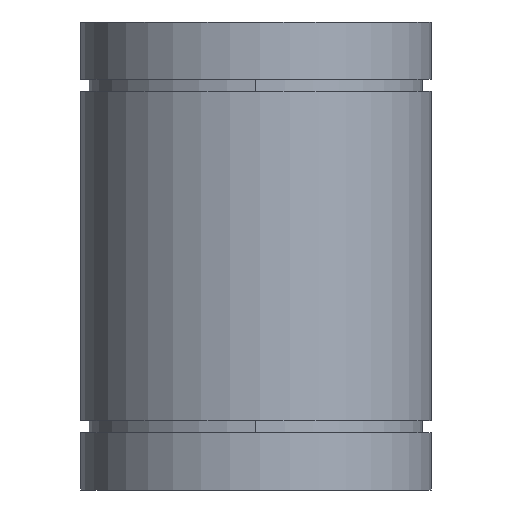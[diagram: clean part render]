
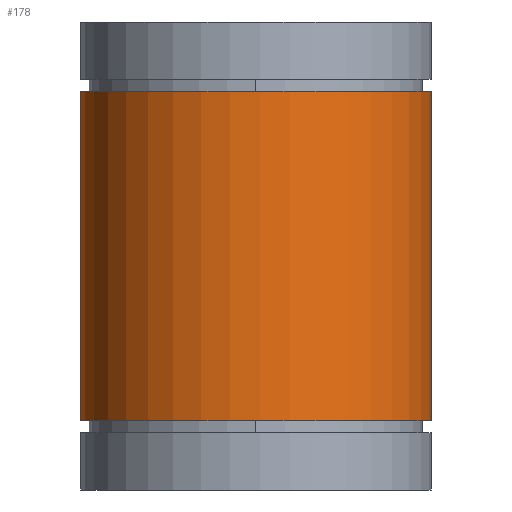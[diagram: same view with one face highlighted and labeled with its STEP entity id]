
A CAD part, front view. The second image highlights one B-rep face of the part: STEP entity #178.
In plain terms, the highlighted cylindrical face has radius 30 mm (diameter 60 mm), a partial arc.
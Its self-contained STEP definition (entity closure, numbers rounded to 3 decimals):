
#137=CARTESIAN_POINT('',(0.0,0.0,0.0));
#138=DIRECTION('',(0.0,0.0,1.0));
#139=DIRECTION('',(-1.0,0.0,0.0));
#140=AXIS2_PLACEMENT_3D('',#137,#138,#139);
#141=CYLINDRICAL_SURFACE('',#140,30.0);
#142=CARTESIAN_POINT('',(30.0,0.,68.15));
#143=VERTEX_POINT('',#142);
#144=CARTESIAN_POINT('',(30.0,0.,11.85));
#145=VERTEX_POINT('',#144);
#146=CARTESIAN_POINT('',(30.0,0.,68.15));
#147=DIRECTION('',(0.0,0.0,-1.0));
#148=VECTOR('',#147,56.3);
#149=LINE('',#146,#148);
#150=EDGE_CURVE('',#143,#145,#149,.T.);
#151=ORIENTED_EDGE('',*,*,#150,.F.);
#152=CARTESIAN_POINT('',(-29.962,-1.5,68.15));
#153=VERTEX_POINT('',#152);
#154=CARTESIAN_POINT('',(0.0,0.0,68.15));
#155=DIRECTION('',(0.0,0.0,-1.0));
#156=DIRECTION('',(-1.0,0.0,0.0));
#157=AXIS2_PLACEMENT_3D('',#154,#155,#156);
#158=CIRCLE('',#157,30.0);
#159=EDGE_CURVE('',#143,#153,#158,.T.);
#160=ORIENTED_EDGE('',*,*,#159,.T.);
#161=CARTESIAN_POINT('',(-29.962,-1.5,11.85));
#162=VERTEX_POINT('',#161);
#163=CARTESIAN_POINT('',(-29.962,-1.5,68.15));
#164=DIRECTION('',(0.0,0.0,-1.0));
#165=VECTOR('',#164,56.3);
#166=LINE('',#163,#165);
#167=EDGE_CURVE('',#153,#162,#166,.T.);
#168=ORIENTED_EDGE('',*,*,#167,.T.);
#169=CARTESIAN_POINT('',(0.0,0.0,11.85));
#170=DIRECTION('',(0.0,0.0,1.0));
#171=DIRECTION('',(-1.0,0.0,0.0));
#172=AXIS2_PLACEMENT_3D('',#169,#170,#171);
#173=CIRCLE('',#172,30.0);
#174=EDGE_CURVE('',#162,#145,#173,.T.);
#175=ORIENTED_EDGE('',*,*,#174,.T.);
#176=EDGE_LOOP('',(#151,#160,#168,#175));
#177=FACE_OUTER_BOUND('',#176,.T.);
#178=ADVANCED_FACE('',(#177),#141,.T.);
